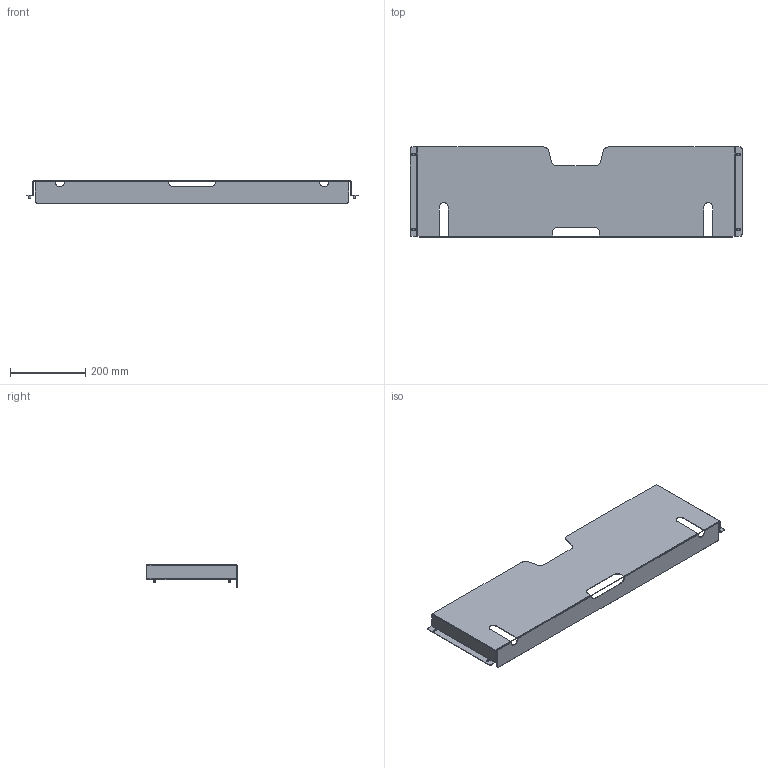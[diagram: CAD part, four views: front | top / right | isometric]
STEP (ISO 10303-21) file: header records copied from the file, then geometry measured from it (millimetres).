
FILE_DESCRIPTION(('CAx-IF Rec.Pracs.---Model Styling and Organization---1.2---2011-12-15','CAx-IF Rec.Pracs.---Geometric and Assembly Validation Properties---4.1---2014-06-16','CAx-IF Rec.Pracs.---PMI Polyline Presentation---2.0---2013-05-24'),'2;1');
FILE_NAME('R5TE100.stp','2021-05-05T13:18:37+03:00',(''),(''),'STEP Interface 4.4 by CT CoreTechnologie','3D_Evolution4.4 by CT CoreTechnologie','');
FILE_SCHEMA(('AUTOMOTIVE_DESIGN { 1 0 10303 214 1 1 1 1 }'));
Length unit declared in the file: millimetre
Products named in the file (3): R5TE100; A2200002; AC00C249
Assembly tree (5 placements, depth 2):
  R5TE100
    A2200002  x4
    AC00C249
Bounding box: 885 x 240 x 60 mm (x, y, z)
Surface area: 531764.3 mm2 (no closed solid volume)
Topology: 0 solids, 5 shells, 116 faces, 318 edges, 202 vertices
Faces by surface type: plane 60, cylinder 56
Entity records: 3612 total; most frequent: DIRECTION 622, CARTESIAN_POINT 600, ORIENTED_EDGE 596, EDGE_CURVE 300, AXIS2_PLACEMENT_3D 213, VECTOR 196, LINE 196, VERTEX_POINT 191
